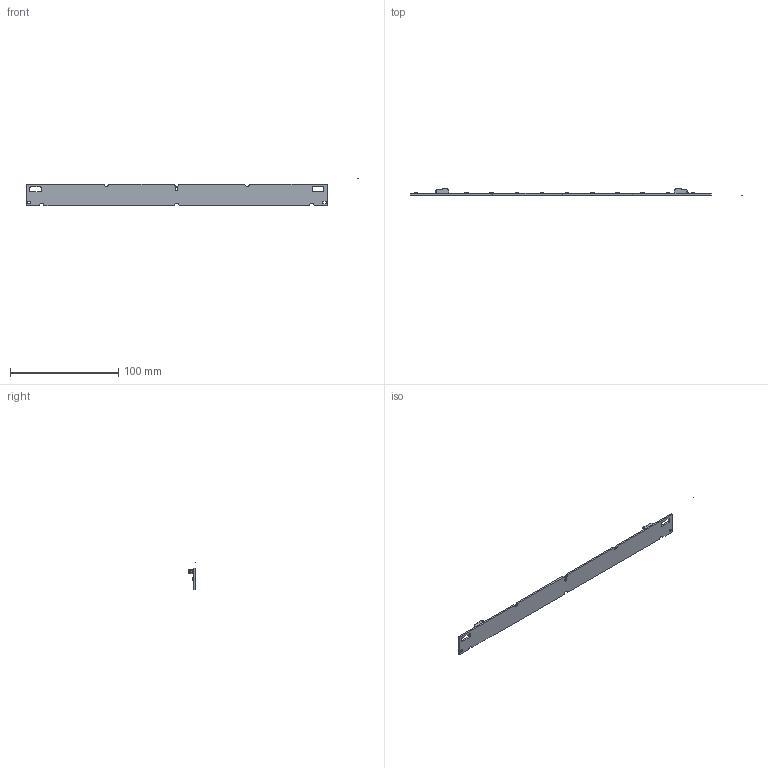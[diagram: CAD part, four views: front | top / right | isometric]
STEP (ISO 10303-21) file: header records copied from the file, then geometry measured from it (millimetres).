
FILE_DESCRIPTION((''),'2;1');
FILE_NAME('SKLOP_WU-M-624_ASM','2019-07-08T13:53:50',('msavic'),(''),'CREO PARAMETRIC BY PTC INC, 2016510','CREO PARAMETRIC BY PTC INC, 2016510','');
FILE_SCHEMA(('AUTOMOTIVE_DESIGN { 1 0 10303 214 1 1 1 1 }'));
Products named in the file (15): BAZA__BAZA__WU-M-624; VSO-LOGO-5MM; VSO-LOGO-5MM001; BUILT-IN_LED_MODULE-5MM004; BUILT-IN_LED_MODULE-5MM003; BUILT-IN_LED_MODULE-5MM002; BUILT-IN_LED_MODULE-5MM001; CE-ZEICHEN-6MM; CE-ZEICHEN-6MM001; PAD_3; PAD_1; PAD_2; STW8A12D127; 2060-451_1_2_3; SKLOP_WU-M-624_ASM
Assembly tree (28 placements, depth 2):
  SKLOP_WU-M-624_ASM
    BAZA__BAZA__WU-M-624
    VSO-LOGO-5MM
    VSO-LOGO-5MM001
    BUILT-IN_LED_MODULE-5MM004
    BUILT-IN_LED_MODULE-5MM003
    BUILT-IN_LED_MODULE-5MM002
    BUILT-IN_LED_MODULE-5MM001  x3
    CE-ZEICHEN-6MM
    CE-ZEICHEN-6MM001
    PAD_3
    PAD_1
    PAD_2
    STW8A12D127  x12
    2060-451_1_2_3  x2
Bounding box: 307.28 x 5.95 x 25.43 mm (x, y, z)
Volume: 367.1 mm3; surface area: 13026 mm2
Topology: 27 solids, 28 shells, 2670 faces, 7656 edges, 5198 vertices
Faces by surface type: plane 1488, extrusion 1008, cylinder 172, sphere 2
Entity records: 103294 total; most frequent: CARTESIAN_POINT 19874, ORIENTED_EDGE 11320, PRESENTATION_STYLE_ASSIGNMENT 8101, STYLED_ITEM 7916, DIRECTION 7146, CURVE_STYLE 6176, EDGE_CURVE 5660, VECTOR 4421
